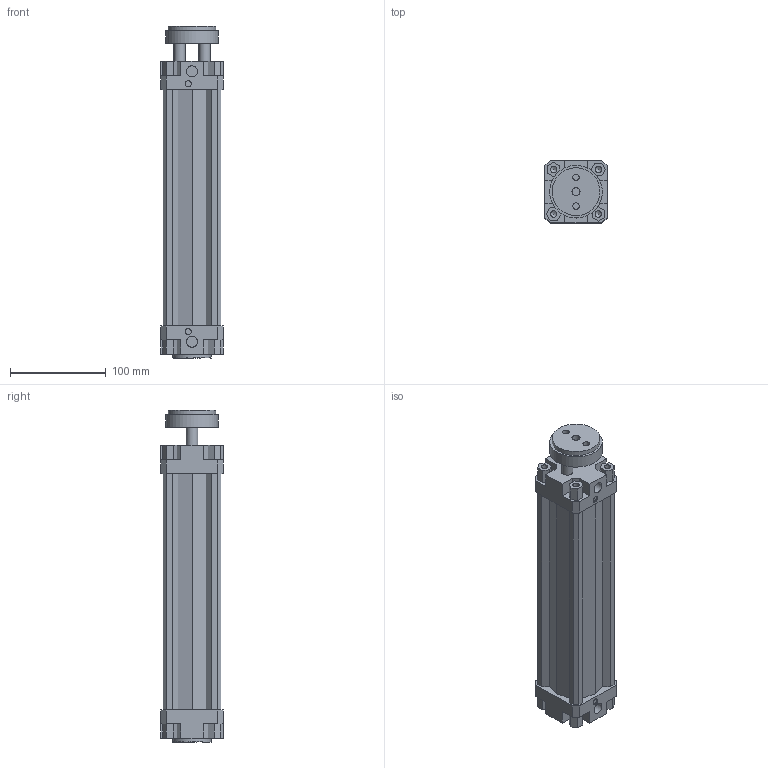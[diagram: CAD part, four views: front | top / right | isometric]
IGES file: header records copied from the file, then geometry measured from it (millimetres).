
Global section: file name: 132#_050_0200_01; native system: Autodesk Inventor 2014; preprocessor: unknown; author: A. Manieri; date: 20161006.155737; units: millimetre
Bounding box: 65 x 65 x 347 mm (x, y, z)
Volume: 663682.9 mm3; surface area: 181511.8 mm2
Topology: 2 solids, 2 shells, 180 faces, 492 edges, 336 vertices
Faces by surface type: bspline 180
